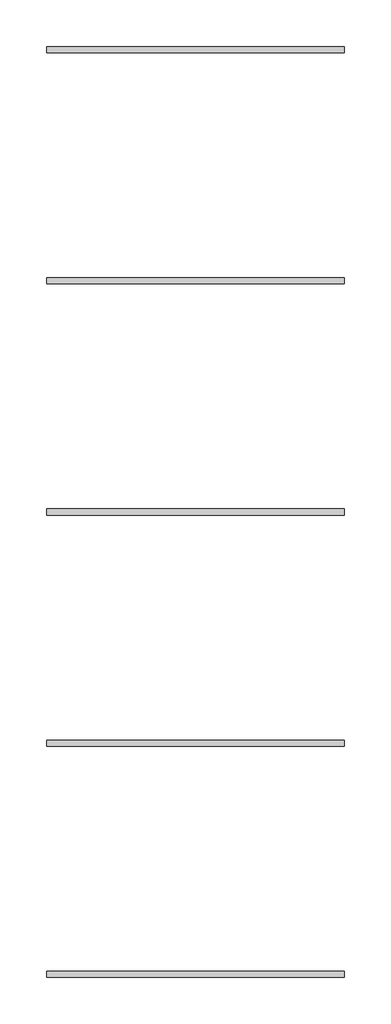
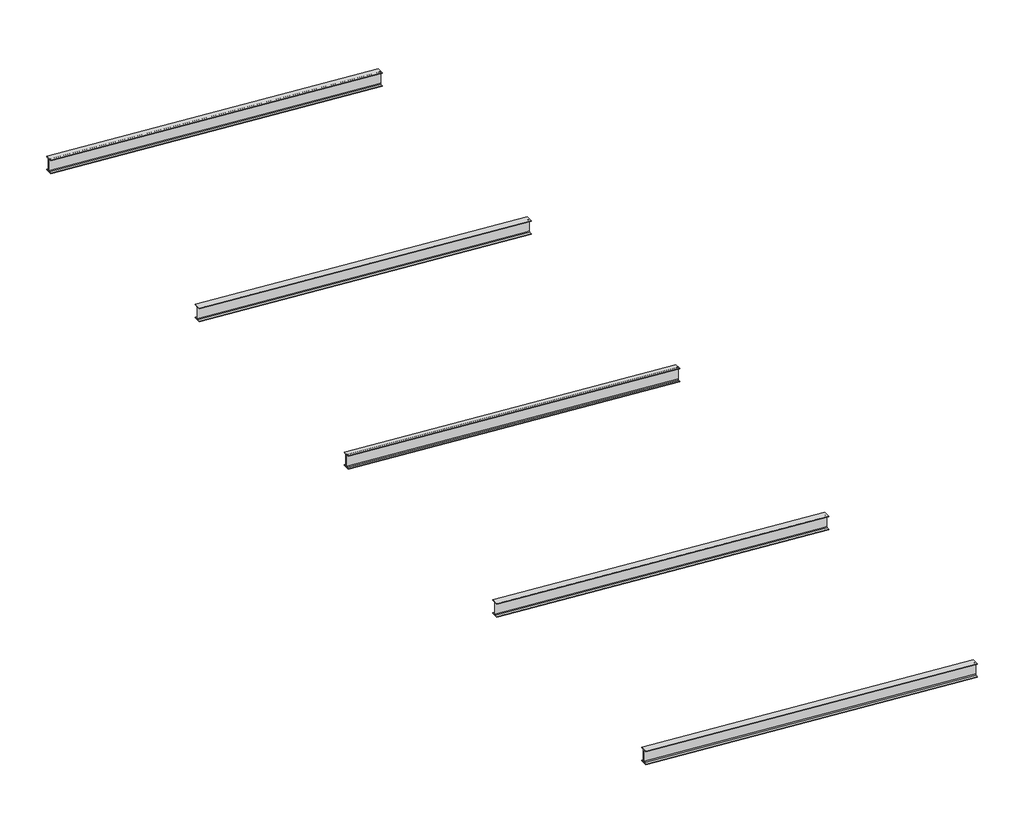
# One storey, part 1 of 2: 5 beams.
"""IFC4 building model written with IfcOpenShell, lengths in millimetres."""

import ifcopenshell
import ifcopenshell.guid

model = None  # the IFC model being written
_history = None  # IfcOwnerHistory: only IFC2X3 demands one
_inside = {}  # id of a spatial element -> (the spatial element, [elements in it])
_under = {}  # id of a project, library or spatial element -> (it, [spatial elements below it])
_declared = {}  # id of a project -> (the project, [libraries it declares])
_typed = {}  # id of a type object -> (the type object, [elements of that type])
_made_of = {}  # id of a material, layer set ... -> (it, [elements and type objects made of it])


def new_model(schema):
    """Start an empty IFC model of exactly this schema.

    Asked for "IFC4X3", IfcOpenShell would pick the latest addendum, in which some entities
    have other attributes; the version numbers below select the first issue.
    IFC2X3 requires an IfcOwnerHistory on every rooted entity: one is made here for all.
    """
    global model, _history
    if schema == "IFC4X3":
        model = ifcopenshell.file(schema_version=(4, 3, 0, 0))
    else:
        model = ifcopenshell.file(schema=schema)
    _inside.clear()
    _under.clear()
    _declared.clear()
    _typed.clear()
    _made_of.clear()
    _history = None
    if model.schema == "IFC2X3":
        org = make("IfcOrganization", Name="unknown")
        user = make(
            "IfcPersonAndOrganization",
            ThePerson=make("IfcPerson", FamilyName="unknown"),
            TheOrganization=org,
        )
        app = make(
            "IfcApplication",
            ApplicationDeveloper=org,
            Version="unknown",
            ApplicationFullName="unknown",
            ApplicationIdentifier="unknown",
        )
        _history = make(
            "IfcOwnerHistory",
            OwningUser=user,
            OwningApplication=app,
            ChangeAction="ADDED",
            CreationDate=0,
        )
    return model


def make(cls, **values):
    """One entity of the class cls with the attributes given. An attribute that is None is left unset."""
    return model.create_entity(
        cls, **{name: value for name, value in values.items() if value is not None}
    )


def rooted(cls, **values):
    """An entity with a GlobalId (a new one), such as an element, a storey or a relation."""
    return make(cls, GlobalId=ifcopenshell.guid.new(), OwnerHistory=_history, **values)


def si_unit(unit_type, name, prefix=None):
    """IfcSIUnit, for example si_unit("LENGTHUNIT", "METRE", prefix="MILLI")."""
    return make("IfcSIUnit", UnitType=unit_type, Prefix=prefix, Name=name)


def assignment(units):
    """IfcUnitAssignment: the units of a project."""
    return None if units is None else make("IfcUnitAssignment", Units=units)


def point(xyz):
    """IfcCartesianPoint."""
    return None if xyz is None else make("IfcCartesianPoint", Coordinates=xyz)


def direction(xyz):
    """IfcDirection."""
    return None if xyz is None else make("IfcDirection", DirectionRatios=xyz)


def frame(location, z_axis=None, x_axis=None):
    """IfcAxis2Placement3D, a coordinate frame: its origin and axes. An axis left out is left unset."""
    return make(
        "IfcAxis2Placement3D",
        Location=point(location),
        Axis=direction(z_axis),
        RefDirection=direction(x_axis),
    )


def origin():
    """The frame at (0, 0, 0) with its axes left unset."""
    return frame((0.0, 0.0, 0.0))


def place(relative_to, where):
    """IfcLocalPlacement: puts the frame where relative to a parent placement (None: the world)."""
    return make(
        "IfcLocalPlacement", PlacementRelTo=relative_to, RelativePlacement=where
    )


def context(
    kind, dimensions, precision=None, world=None, true_north=None, identifier=None
):
    """IfcGeometricRepresentationContext, for example the 3D "Model" context."""
    return make(
        "IfcGeometricRepresentationContext",
        ContextIdentifier=identifier,
        ContextType=kind,
        CoordinateSpaceDimension=dimensions,
        Precision=precision,
        WorldCoordinateSystem=world,
        TrueNorth=true_north,
    )


def project(units=None, contexts=None):
    """IfcProject with its units and contexts."""
    return rooted(
        "IfcProject",
        Name="project",
        RepresentationContexts=contexts,
        UnitsInContext=assignment(units),
    )


def spatial(cls, under=None, at=None, **own):
    """A site, building, storey or space (cls), placed at a placement, below another one or the project."""
    s = rooted(cls, ObjectPlacement=at, **own)
    if under is not None:
        _under.setdefault(under.id(), (under, []))[1].append(s)
    return s


def polyline(points):
    """IfcPolyline through the points."""
    return make("IfcPolyline", Points=[point(p) for p in points])


def ellipse_curve(where, semi_axis1, semi_axis2):
    """IfcEllipse in the frame where."""
    return make(
        "IfcEllipse", Position=where, SemiAxis1=semi_axis1, SemiAxis2=semi_axis2
    )


def shape(context_of_items, identifier, shape_type, items):
    """IfcShapeRepresentation: the items that make up one representation, for example the "Body"."""
    return make(
        "IfcShapeRepresentation",
        ContextOfItems=context_of_items,
        RepresentationIdentifier=identifier,
        RepresentationType=shape_type,
        Items=items,
    )


def made_of(thing, what):
    """Note that an element or type object is made of a material, layer set ...; save() writes the relation."""
    if what is not None:
        _made_of.setdefault(what.id(), (what, []))[1].append(thing)
    return thing


def element(
    cls,
    number,
    at=None,
    inside=None,
    cuts=None,
    type_object=None,
    material=None,
    context=None,
    identifier="Body",
    shape_type=None,
    held_by="IfcProductDefinitionShape",
    body=None,
    shapes=None,
    **own,
):
    """One element of the class cls, such as IfcWall. Its Tag is "e" and its number.

    at: its placement. inside: the storey or other place that contains it. cuts: it is an
    opening in that element (IfcRelVoidsElement). A single representation is given by context,
    identifier, shape_type and body (its items); several are given by shapes. held_by: the class
    of the entity that holds the representations. save() writes the other relations.
    """
    e = rooted(cls, Tag="e%d" % number, ObjectPlacement=at, **own)
    if body is not None:
        shapes = [shape(context, identifier, shape_type, body)]
    if shapes is not None:
        e.Representation = make(held_by, Representations=shapes)
    if inside is not None:
        _inside.setdefault(inside.id(), (inside, []))[1].append(e)
    if cuts is not None:
        rooted(
            "IfcRelVoidsElement", RelatingBuildingElement=cuts, RelatedOpeningElement=e
        )
    if type_object is not None:
        _typed.setdefault(type_object.id(), (type_object, []))[1].append(e)
    return made_of(e, material)


def aggregate(whole, parts):
    """IfcRelAggregates: a whole, such as a stair, and the parts it consists of."""
    return rooted("IfcRelAggregates", RelatingObject=whole, RelatedObjects=parts)


def save(model, path):
    """Write the relations noted so far, then the file.

    IfcRelAggregates (storeys below a building ...), IfcRelContainedInSpatialStructure (elements
    in a storey), IfcRelDefinesByType, IfcRelAssociatesMaterial and IfcRelDeclares: one each for
    every whole, place, type object, material and project.
    """
    for whole, parts in _under.values():
        aggregate(whole, parts)
    for where, things in _inside.values():
        rooted(
            "IfcRelContainedInSpatialStructure",
            RelatedElements=things,
            RelatingStructure=where,
        )
    for kind, things in _typed.values():
        rooted("IfcRelDefinesByType", RelatedObjects=things, RelatingType=kind)
    for what, things in _made_of.values():
        rooted("IfcRelAssociatesMaterial", RelatedObjects=things, RelatingMaterial=what)
    for by, libraries in _declared.values():
        rooted("IfcRelDeclares", RelatingContext=by, RelatedDefinitions=libraries)
    model.write(path)


def plane_surface(at):
    """IfcPlane: the flat surface through the origin of the frame at, square to its z axis."""
    return make("IfcPlane", Position=at)


def revolved_surface(curve, axis_point, axis_direction):
    """IfcSurfaceOfRevolution: the curve turned about the line through axis_point along axis_direction."""
    return make(
        "IfcSurfaceOfRevolution",
        SweptCurve=make("IfcArbitraryOpenProfileDef", ProfileType="CURVE", Curve=curve),
        AxisPosition=make("IfcAxis1Placement", Location=point(axis_point), Axis=direction(axis_direction)),
    )


def advanced_brep(points, edges, surfaces, faces):
    """IfcAdvancedBrep: a solid bounded by faces that lie on surfaces and meet in shared edges.

    An edge is (start, end): straight between two places in points (the first is 0);
    or (start, end, curve); or (start, end, curve, False) where it runs against its curve.
    A face is (place in surfaces, loops), or (place, loops, False) where it looks against
    its surface's normal. A loop lists edges by number (the first is 1), with a minus sign
    where the edge is run from its end to its start. The first loop is the outer one.
    """
    corners = [point(p) for p in points]
    vertices = [make("IfcVertexPoint", VertexGeometry=c) for c in corners]
    made = []
    for start, end, *more in edges:
        made.append(
            make(
                "IfcEdgeCurve",
                EdgeStart=vertices[start],
                EdgeEnd=vertices[end],
                EdgeGeometry=more[0] if more else make("IfcPolyline", Points=[corners[start], corners[end]]),
                SameSense=more[1] if len(more) > 1 else True,
            )
        )
    hull = []
    for where, loops, *sense in faces:
        bounds = []
        for j, loop in enumerate(loops):
            ring = [make("IfcOrientedEdge", EdgeElement=made[abs(k) - 1], Orientation=k > 0) for k in loop]
            bounds.append(
                make(
                    "IfcFaceOuterBound" if j == 0 else "IfcFaceBound",
                    Bound=make("IfcEdgeLoop", EdgeList=ring),
                    Orientation=True,
                )
            )
        hull.append(make("IfcAdvancedFace", Bounds=bounds, FaceSurface=surfaces[where], SameSense=sense[0] if sense else True))
    return make("IfcAdvancedBrep", Outer=make("IfcClosedShell", CfsFaces=hull))


model = new_model("IFC4")

# Units and contexts
model_context = context("Model", 3, world=origin())
ifc_project = project(units=[si_unit("LENGTHUNIT", "METRE", prefix="MILLI")], contexts=[model_context])

# Site, building, storey
site = spatial("IfcSite", under=ifc_project)
building = spatial("IfcBuilding", under=site)
storey = spatial("IfcBuildingStorey", under=building, Name="+3,50 góra", Elevation=3504.0)

# Beams
placement = place(None, origin())
element("IfcBeam", 1, ObjectType="RPLN IPE - Dwuteowniki równoległościenne : I330PE", at=placement, inside=storey, context=model_context, shape_type="AdvancedBrep", body=[
    advanced_brep(
    [(4098.4032904, -36890.7316585, 4062.6389037), (4098.4032904, -36832.4816585, 4062.6389037), (4098.4032904, -36832.4816585, 4051.1096327), (4098.4032904, -36992.4816585, 4051.1096327), (4098.4032904, -36992.4816585, 4062.6389037), (4098.4032904, -36934.2316585, 4062.6389037), (4098.4032904, -36916.2316585, 4080.6847192), (4098.4032904, -36916.2316585, 4352.3744964), (4098.4032904, -36934.2316585, 4370.4203118), (4098.4032904, -36992.4816585, 4370.4203118), (4098.4032904, -36992.4816585, 4381.9495828), (4098.4032904, -36832.4816585, 4381.9495828), (4098.4032904, -36832.4816585, 4370.4203118), (4098.4032904, -36890.7316585, 4370.4203118), (4098.4032904, -36908.7316585, 4352.3744964), (4098.4032904, -36908.7316585, 4080.6847192), (11827.9888896, -36832.4816585, 3510.7938331), (11827.9888896, -36890.7316585, 3510.7938331), (11827.9888896, -36908.7316585, 3528.8396485), (11827.9888896, -36908.7316585, 3800.5294258), (11827.9888896, -36890.7316585, 3818.5752412), (11827.9888896, -36832.4816585, 3818.5752412), (11827.9888896, -36832.4816585, 3830.1045122), (11827.9888896, -36992.4816585, 3830.1045122), (11827.9888896, -36992.4816585, 3818.5752412), (11827.9888896, -36934.2316585, 3818.5752412), (11827.9888896, -36916.2316585, 3800.5294258), (11827.9888896, -36916.2316585, 3528.8396485), (11827.9888896, -36934.2316585, 3510.7938331), (11827.9888896, -36992.4816585, 3510.7938331), (11827.9888896, -36992.4816585, 3499.2645621), (11827.9888896, -36832.4816585, 3499.2645621)],
    [
        (0, 1),
        (1, 2),
        (2, 3),
        (3, 4),
        (4, 5),
        (5, 6, ellipse_curve(frame((4098.4032904, -36934.2316585, 4080.6847192), z_axis=(1.0, 0.0, 0.0), x_axis=(0.0, 0.0, 1.0)), 18.0458155, 18.0)),
        (6, 7),
        (7, 8, ellipse_curve(frame((4098.4032904, -36934.2316585, 4352.3744964), z_axis=(1.0, 0.0, 0.0), x_axis=(0.0, 0.0, 1.0)), 18.0458155, 18.0)),
        (8, 9),
        (9, 10),
        (10, 11),
        (11, 12),
        (12, 13),
        (13, 14, ellipse_curve(frame((4098.4032904, -36890.7316585, 4352.3744964), z_axis=(1.0, 0.0, 0.0), x_axis=(0.0, 0.0, 1.0)), 18.0458155, 18.0)),
        (14, 15),
        (15, 0, ellipse_curve(frame((4098.4032904, -36890.7316585, 4080.6847192), z_axis=(1.0, 0.0, 0.0), x_axis=(0.0, 0.0, 1.0)), 18.0458155, 18.0)),
        (16, 17),
        (17, 18, ellipse_curve(frame((11827.9888896, -36890.7316585, 3528.8396485), z_axis=(-1.0, 0.0, 0.0), x_axis=(0.0, 0.0, 1.0)), 18.0458155, 18.0)),
        (18, 19),
        (19, 20, ellipse_curve(frame((11827.9888896, -36890.7316585, 3800.5294258), z_axis=(-1.0, 0.0, 0.0), x_axis=(0.0, 0.0, 1.0)), 18.0458155, 18.0)),
        (20, 21),
        (21, 22),
        (22, 23),
        (23, 24),
        (24, 25),
        (25, 26, ellipse_curve(frame((11827.9888896, -36934.2316585, 3800.5294258), z_axis=(-1.0, 0.0, 0.0), x_axis=(0.0, 0.0, 1.0)), 18.0458155, 18.0)),
        (26, 27),
        (27, 28, ellipse_curve(frame((11827.9888896, -36934.2316585, 3528.8396485), z_axis=(-1.0, 0.0, 0.0), x_axis=(0.0, 0.0, 1.0)), 18.0458155, 18.0)),
        (28, 29),
        (29, 30),
        (30, 31),
        (31, 16),
        (16, 1),
        (0, 17),
        (31, 2),
        (30, 3),
        (29, 4),
        (28, 5),
        (27, 6),
        (26, 7),
        (25, 8),
        (24, 9),
        (23, 10),
        (22, 11),
        (21, 12),
        (20, 13),
        (19, 14),
        (18, 15),
    ],
    [
        plane_surface(frame((4098.4032904, -28791.4644976, 4040.8513801), z_axis=(-1.0, 0.0, 0.0), x_axis=(0.0, 0.0, -1.0))),
        plane_surface(frame((11827.9888896, -28791.4644976, 3790.5936883), z_axis=(1.0, 0.0, 0.0), x_axis=(0.0, 0.0, 1.0))),
        plane_surface(frame((11911.7510301, -36832.4816585, 3504.8137292), z_axis=(0.07121261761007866, 0.0, 0.997461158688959), x_axis=(-0.997461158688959, 0.0, 0.07121261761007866))),
        plane_surface(frame((11910.932085, -36832.4816585, 3493.3429259), z_axis=(0.0, 1.0, 0.0), x_axis=(-0.997461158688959, 0.0, 0.07121261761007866))),
        plane_surface(frame((11910.932085, -36992.4816585, 3493.3429259), z_axis=(-0.07121261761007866, 0.0, -0.997461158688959), x_axis=(-0.997461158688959, 0.0, 0.07121261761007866))),
        plane_surface(frame((11911.7510301, -36992.4816585, 3504.8137292), z_axis=(0.0, -1.0, 0.0), x_axis=(-0.997461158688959, 0.0, 0.07121261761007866))),
        plane_surface(frame((11911.7510301, -36934.2316585, 3504.8137292), z_axis=(0.07121261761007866, 0.0, 0.997461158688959), x_axis=(-0.997461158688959, 0.0, 0.07121261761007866))),
        revolved_surface(polyline([(4097.12146327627, -36952.2316585, 4080.7762337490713), (11829.270716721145, -36952.2316585, 3528.7481339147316)]), (11913.0328572, -36934.2316585, 3522.7680301), (-0.997461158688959, 0.0, 0.07121261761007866)),
        plane_surface(frame((11932.3314766, -36916.2316585, 3793.0800041), z_axis=(0.0, -1.0, 0.0), x_axis=(-0.997461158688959, 0.0, 0.07121261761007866))),
        revolved_surface(polyline([(4097.121463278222, -36952.2316585, 4352.466010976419), (11829.270716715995, -36952.2316585, 3800.4379111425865)]), (11932.3314766, -36934.2316585, 3793.0800041), (-0.997461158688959, 0.0, 0.07121261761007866)),
        plane_surface(frame((11933.6133037, -36992.4816585, 3811.034305), z_axis=(-0.07121261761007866, 0.0, -0.997461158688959), x_axis=(-0.997461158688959, 0.0, 0.07121261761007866))),
        plane_surface(frame((11934.4322488, -36992.4816585, 3822.5051083), z_axis=(0.0, -1.0, 0.0), x_axis=(-0.997461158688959, 0.0, 0.07121261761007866))),
        plane_surface(frame((11934.4322488, -36832.4816585, 3822.5051083), z_axis=(0.07121261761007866, 0.0, 0.997461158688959), x_axis=(-0.997461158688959, 0.0, 0.07121261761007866))),
        plane_surface(frame((11933.6133037, -36832.4816585, 3811.034305), z_axis=(0.0, 1.0, 0.0), x_axis=(-0.997461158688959, 0.0, 0.07121261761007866))),
        plane_surface(frame((11933.6133037, -36890.7316585, 3811.034305), z_axis=(-0.07121261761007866, 0.0, -0.997461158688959), x_axis=(-0.997461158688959, 0.0, 0.07121261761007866))),
        revolved_surface(polyline([(4097.121463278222, -36908.7316585, 4352.466010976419), (11829.270716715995, -36908.7316585, 3800.4379111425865)]), (11932.3314766, -36890.7316585, 3793.0800041), (-0.997461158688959, 0.0, 0.07121261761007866)),
        plane_surface(frame((11913.0328572, -36908.7316585, 3522.7680301), z_axis=(0.0, 1.0, 0.0), x_axis=(-0.997461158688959, 0.0, 0.07121261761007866))),
        revolved_surface(polyline([(4097.12146327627, -36908.7316585, 4080.7762337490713), (11829.270716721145, -36908.7316585, 3528.7481339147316)]), (11913.0328572, -36890.7316585, 3522.7680301), (-0.997461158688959, 0.0, 0.07121261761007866)),
    ],
    [
        (0, [[1, 2, 3, 4, 5, 6, 7, 8, 9, 10, 11, 12, 13, 14, 15, 16]]),
        (1, [[17, 18, 19, 20, 21, 22, 23, 24, 25, 26, 27, 28, 29, 30, 31, 32]]),
        (2, [[33, -1, 34, -17]]),
        (3, [[35, -2, -33, -32]]),
        (4, [[36, -3, -35, -31]]),
        (5, [[37, -4, -36, -30]]),
        (6, [[38, -5, -37, -29]]),
        (7, [[39, -6, -38, -28]]),
        (8, [[40, -7, -39, -27]]),
        (9, [[41, -8, -40, -26]]),
        (10, [[42, -9, -41, -25]]),
        (11, [[43, -10, -42, -24]]),
        (12, [[44, -11, -43, -23]]),
        (13, [[45, -12, -44, -22]]),
        (14, [[46, -13, -45, -21]]),
        (15, [[47, -14, -46, -20]]),
        (16, [[48, -15, -47, -19]]),
        (17, [[-34, -16, -48, -18]]),
    ],
),
])
element("IfcBeam", 2, ObjectType="RPLN IPE - Dwuteowniki równoległościenne : I330PE", at=placement, inside=storey, context=model_context, shape_type="AdvancedBrep", body=[
    advanced_brep(
    [(4098.4032904, -30890.7316585, 4052.3806511), (4098.4032904, -30832.4816585, 4052.3806511), (4098.4032904, -30832.4816585, 4040.8513801), (4098.4032904, -30992.4816585, 4040.8513801), (4098.4032904, -30992.4816585, 4052.3806511), (4098.4032904, -30934.2316585, 4052.3806511), (4098.4032904, -30916.2316585, 4070.4264665), (4098.4032904, -30916.2316585, 4342.1162438), (4098.4032904, -30934.2316585, 4360.1620592), (4098.4032904, -30992.4816585, 4360.1620592), (4098.4032904, -30992.4816585, 4371.6913302), (4098.4032904, -30832.4816585, 4371.6913302), (4098.4032904, -30832.4816585, 4360.1620592), (4098.4032904, -30890.7316585, 4360.1620592), (4098.4032904, -30908.7316585, 4342.1162438), (4098.4032904, -30908.7316585, 4070.4264665), (11827.9888896, -30832.4816585, 3500.5355804), (11827.9888896, -30890.7316585, 3500.5355804), (11827.9888896, -30908.7316585, 3518.5813959), (11827.9888896, -30908.7316585, 3790.2711731), (11827.9888896, -30890.7316585, 3808.3169886), (11827.9888896, -30832.4816585, 3808.3169886), (11827.9888896, -30832.4816585, 3819.8462596), (11827.9888896, -30992.4816585, 3819.8462596), (11827.9888896, -30992.4816585, 3808.3169886), (11827.9888896, -30934.2316585, 3808.3169886), (11827.9888896, -30916.2316585, 3790.2711731), (11827.9888896, -30916.2316585, 3518.5813959), (11827.9888896, -30934.2316585, 3500.5355804), (11827.9888896, -30992.4816585, 3500.5355804), (11827.9888896, -30992.4816585, 3489.0063094), (11827.9888896, -30832.4816585, 3489.0063094)],
    [
        (0, 1),
        (1, 2),
        (2, 3),
        (3, 4),
        (4, 5),
        (5, 6, ellipse_curve(frame((4098.4032904, -30934.2316585, 4070.4264665), z_axis=(1.0, 0.0, 0.0), x_axis=(0.0, 0.0, 1.0)), 18.0458155, 18.0)),
        (6, 7),
        (7, 8, ellipse_curve(frame((4098.4032904, -30934.2316585, 4342.1162438), z_axis=(1.0, 0.0, 0.0), x_axis=(0.0, 0.0, 1.0)), 18.0458155, 18.0)),
        (8, 9),
        (9, 10),
        (10, 11),
        (11, 12),
        (12, 13),
        (13, 14, ellipse_curve(frame((4098.4032904, -30890.7316585, 4342.1162438), z_axis=(1.0, 0.0, 0.0), x_axis=(0.0, 0.0, 1.0)), 18.0458155, 18.0)),
        (14, 15),
        (15, 0, ellipse_curve(frame((4098.4032904, -30890.7316585, 4070.4264665), z_axis=(1.0, 0.0, 0.0), x_axis=(0.0, 0.0, 1.0)), 18.0458155, 18.0)),
        (16, 17),
        (17, 18, ellipse_curve(frame((11827.9888896, -30890.7316585, 3518.5813959), z_axis=(-1.0, 0.0, 0.0), x_axis=(0.0, 0.0, 1.0)), 18.0458155, 18.0)),
        (18, 19),
        (19, 20, ellipse_curve(frame((11827.9888896, -30890.7316585, 3790.2711731), z_axis=(-1.0, 0.0, 0.0), x_axis=(0.0, 0.0, 1.0)), 18.0458155, 18.0)),
        (20, 21),
        (21, 22),
        (22, 23),
        (23, 24),
        (24, 25),
        (25, 26, ellipse_curve(frame((11827.9888896, -30934.2316585, 3790.2711731), z_axis=(-1.0, 0.0, 0.0), x_axis=(0.0, 0.0, 1.0)), 18.0458155, 18.0)),
        (26, 27),
        (27, 28, ellipse_curve(frame((11827.9888896, -30934.2316585, 3518.5813959), z_axis=(-1.0, 0.0, 0.0), x_axis=(0.0, 0.0, 1.0)), 18.0458155, 18.0)),
        (28, 29),
        (29, 30),
        (30, 31),
        (31, 16),
        (16, 1),
        (0, 17),
        (31, 2),
        (30, 3),
        (29, 4),
        (28, 5),
        (27, 6),
        (26, 7),
        (25, 8),
        (24, 9),
        (23, 10),
        (22, 11),
        (21, 12),
        (20, 13),
        (19, 14),
        (18, 15),
    ],
    [
        plane_surface(frame((4098.4032904, -28791.4644976, 4040.8513801), z_axis=(-1.0, 0.0, 0.0), x_axis=(0.0, 0.0, -1.0))),
        plane_surface(frame((11827.9888896, -28791.4644976, 3790.5936883), z_axis=(1.0, 0.0, 0.0), x_axis=(0.0, 0.0, 1.0))),
        plane_surface(frame((11876.6555373, -30832.4816585, 3497.0610799), z_axis=(0.07121261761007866, 0.0, 0.997461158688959), x_axis=(-0.997461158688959, 0.0, 0.07121261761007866))),
        plane_surface(frame((11875.8365922, -30832.4816585, 3485.5902765), z_axis=(0.0, 1.0, 0.0), x_axis=(-0.997461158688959, 0.0, 0.07121261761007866))),
        plane_surface(frame((11875.8365922, -30992.4816585, 3485.5902765), z_axis=(-0.07121261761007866, 0.0, -0.997461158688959), x_axis=(-0.997461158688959, 0.0, 0.07121261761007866))),
        plane_surface(frame((11876.6555373, -30992.4816585, 3497.0610799), z_axis=(0.0, -1.0, 0.0), x_axis=(-0.997461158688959, 0.0, 0.07121261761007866))),
        plane_surface(frame((11876.6555373, -30934.2316585, 3497.0610799), z_axis=(0.07121261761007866, 0.0, 0.997461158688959), x_axis=(-0.997461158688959, 0.0, 0.07121261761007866))),
        revolved_surface(polyline([(4097.121463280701, -30952.2316585, 4070.517981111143), (11829.270716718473, -30952.2316585, 3518.48988127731)]), (11877.9373644, -30934.2316585, 3515.0153807), (-0.997461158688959, 0.0, 0.07121261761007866)),
        plane_surface(frame((11897.2359838, -30916.2316585, 3785.3273547), z_axis=(0.0, -1.0, 0.0), x_axis=(-0.997461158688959, 0.0, 0.07121261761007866))),
        revolved_surface(polyline([(4097.121463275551, -30952.2316585, 4342.207758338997), (11829.270716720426, -30952.2316585, 3790.1796585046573)]), (11897.2359838, -30934.2316585, 3785.3273547), (-0.997461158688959, 0.0, 0.07121261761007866)),
        plane_surface(frame((11898.5178109, -30992.4816585, 3803.2816556), z_axis=(-0.07121261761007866, 0.0, -0.997461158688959), x_axis=(-0.997461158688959, 0.0, 0.07121261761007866))),
        plane_surface(frame((11899.336756, -30992.4816585, 3814.7524589), z_axis=(0.0, -1.0, 0.0), x_axis=(-0.997461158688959, 0.0, 0.07121261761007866))),
        plane_surface(frame((11899.336756, -30832.4816585, 3814.7524589), z_axis=(0.07121261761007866, 0.0, 0.997461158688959), x_axis=(-0.997461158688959, 0.0, 0.07121261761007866))),
        plane_surface(frame((11898.5178109, -30832.4816585, 3803.2816556), z_axis=(0.0, 1.0, 0.0), x_axis=(-0.997461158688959, 0.0, 0.07121261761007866))),
        plane_surface(frame((11898.5178109, -30890.7316585, 3803.2816556), z_axis=(-0.07121261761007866, 0.0, -0.997461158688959), x_axis=(-0.997461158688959, 0.0, 0.07121261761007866))),
        revolved_surface(polyline([(4097.121463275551, -30908.7316585, 4342.207758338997), (11829.270716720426, -30908.7316585, 3790.1796585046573)]), (11897.2359838, -30890.7316585, 3785.3273547), (-0.997461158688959, 0.0, 0.07121261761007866)),
        plane_surface(frame((11877.9373644, -30908.7316585, 3515.0153807), z_axis=(0.0, 1.0, 0.0), x_axis=(-0.997461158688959, 0.0, 0.07121261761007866))),
        revolved_surface(polyline([(4097.121463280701, -30908.7316585, 4070.517981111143), (11829.270716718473, -30908.7316585, 3518.48988127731)]), (11877.9373644, -30890.7316585, 3515.0153807), (-0.997461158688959, 0.0, 0.07121261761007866)),
    ],
    [
        (0, [[1, 2, 3, 4, 5, 6, 7, 8, 9, 10, 11, 12, 13, 14, 15, 16]]),
        (1, [[17, 18, 19, 20, 21, 22, 23, 24, 25, 26, 27, 28, 29, 30, 31, 32]]),
        (2, [[33, -1, 34, -17]]),
        (3, [[35, -2, -33, -32]]),
        (4, [[36, -3, -35, -31]]),
        (5, [[37, -4, -36, -30]]),
        (6, [[38, -5, -37, -29]]),
        (7, [[39, -6, -38, -28]]),
        (8, [[40, -7, -39, -27]]),
        (9, [[41, -8, -40, -26]]),
        (10, [[42, -9, -41, -25]]),
        (11, [[43, -10, -42, -24]]),
        (12, [[44, -11, -43, -23]]),
        (13, [[45, -12, -44, -22]]),
        (14, [[46, -13, -45, -21]]),
        (15, [[47, -14, -46, -20]]),
        (16, [[48, -15, -47, -19]]),
        (17, [[-34, -16, -48, -18]]),
    ],
),
])
element("IfcBeam", 3, ObjectType="RPLN IPE - Dwuteowniki równoległościenne : I330PE", at=placement, inside=storey, context=model_context, shape_type="AdvancedBrep", body=[
    advanced_brep(
    [(11827.9888896, -24832.4816585, 3500.5355804), (11827.9888896, -24890.7316585, 3500.5355804), (11827.9888896, -24908.7316585, 3518.5813959), (11827.9888896, -24908.7316585, 3790.2711731), (11827.9888896, -24890.7316585, 3808.3169886), (11827.9888896, -24832.4816585, 3808.3169886), (11827.9888896, -24832.4816585, 3819.8462596), (11827.9888896, -24992.4816585, 3819.8462596), (11827.9888896, -24992.4816585, 3808.3169886), (11827.9888896, -24934.2316585, 3808.3169886), (11827.9888896, -24916.2316585, 3790.2711731), (11827.9888896, -24916.2316585, 3518.5813959), (11827.9888896, -24934.2316585, 3500.5355804), (11827.9888896, -24992.4816585, 3500.5355804), (11827.9888896, -24992.4816585, 3489.0063094), (11827.9888896, -24832.4816585, 3489.0063094), (4098.4032904, -24832.4816585, 4052.3806511), (4098.4032904, -24832.4816585, 4040.8513801), (4098.4032904, -24992.4816585, 4040.8513801), (4098.4032904, -24992.4816585, 4052.3806511), (4098.4032904, -24934.2316585, 4052.3806511), (4098.4032904, -24916.2316585, 4070.4264665), (4098.4032904, -24916.2316585, 4342.1162438), (4098.4032904, -24934.2316585, 4360.1620592), (4098.4032904, -24992.4816585, 4360.1620592), (4098.4032904, -24992.4816585, 4371.6913302), (4098.4032904, -24832.4816585, 4371.6913302), (4098.4032904, -24832.4816585, 4360.1620592), (4098.4032904, -24890.7316585, 4360.1620592), (4098.4032904, -24908.7316585, 4342.1162438), (4098.4032904, -24908.7316585, 4070.4264665), (4098.4032904, -24890.7316585, 4052.3806511)],
    [
        (0, 1),
        (1, 2, ellipse_curve(frame((11827.9888896, -24890.7316585, 3518.5813959), z_axis=(-1.0, 0.0, 0.0), x_axis=(0.0, 0.0, 1.0)), 18.0458155, 18.0)),
        (2, 3),
        (3, 4, ellipse_curve(frame((11827.9888896, -24890.7316585, 3790.2711731), z_axis=(-1.0, 0.0, 0.0), x_axis=(0.0, 0.0, 1.0)), 18.0458155, 18.0)),
        (4, 5),
        (5, 6),
        (6, 7),
        (7, 8),
        (8, 9),
        (9, 10, ellipse_curve(frame((11827.9888896, -24934.2316585, 3790.2711731), z_axis=(-1.0, 0.0, 0.0), x_axis=(0.0, 0.0, 1.0)), 18.0458155, 18.0)),
        (10, 11),
        (11, 12, ellipse_curve(frame((11827.9888896, -24934.2316585, 3518.5813959), z_axis=(-1.0, 0.0, 0.0), x_axis=(0.0, 0.0, 1.0)), 18.0458155, 18.0)),
        (12, 13),
        (13, 14),
        (14, 15),
        (15, 0),
        (16, 17),
        (17, 18),
        (18, 19),
        (19, 20),
        (20, 21, ellipse_curve(frame((4098.4032904, -24934.2316585, 4070.4264665), z_axis=(1.0, 0.0, 0.0), x_axis=(0.0, 0.0, 1.0)), 18.0458155, 18.0)),
        (21, 22),
        (22, 23, ellipse_curve(frame((4098.4032904, -24934.2316585, 4342.1162438), z_axis=(1.0, 0.0, 0.0), x_axis=(0.0, 0.0, 1.0)), 18.0458155, 18.0)),
        (23, 24),
        (24, 25),
        (25, 26),
        (26, 27),
        (27, 28),
        (28, 29, ellipse_curve(frame((4098.4032904, -24890.7316585, 4342.1162438), z_axis=(1.0, 0.0, 0.0), x_axis=(0.0, 0.0, 1.0)), 18.0458155, 18.0)),
        (29, 30),
        (30, 31, ellipse_curve(frame((4098.4032904, -24890.7316585, 4070.4264665), z_axis=(1.0, 0.0, 0.0), x_axis=(0.0, 0.0, 1.0)), 18.0458155, 18.0)),
        (31, 16),
        (0, 16),
        (31, 1),
        (30, 2),
        (29, 3),
        (28, 4),
        (27, 5),
        (26, 6),
        (25, 7),
        (24, 8),
        (23, 9),
        (22, 10),
        (21, 11),
        (20, 12),
        (19, 13),
        (18, 14),
        (17, 15),
    ],
    [
        plane_surface(frame((11827.9888896, -28791.4644976, 3790.5936883), z_axis=(1.0, 0.0, 0.0), x_axis=(0.0, 0.0, 1.0))),
        plane_surface(frame((4098.4032904, -28791.4644976, 4040.8513801), z_axis=(-1.0, 0.0, 0.0), x_axis=(0.0, 0.0, -1.0))),
        plane_surface(frame((12010.8699902, -24832.4816585, 3487.4789899), z_axis=(0.07121261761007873, 0.0, 0.997461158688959), x_axis=(-0.997461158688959, 0.0, 0.07121261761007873))),
        revolved_surface(polyline([(4097.121463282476, -24908.7316585, 4070.5179811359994), (11829.270716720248, -24908.7316585, 3518.489881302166)]), (12012.1518174, -24890.7316585, 3505.4332908), (-0.997461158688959, 0.0, 0.07121261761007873)),
        plane_surface(frame((12012.1518174, -24908.7316585, 3505.4332908), z_axis=(0.0, 1.0, 0.0), x_axis=(-0.997461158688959, 0.0, 0.07121261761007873))),
        revolved_surface(polyline([(4097.121463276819, -24908.7316585, 4342.207758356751), (11829.270716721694, -24908.7316585, 3790.17965852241)]), (12031.4504367, -24890.7316585, 3775.7452648), (-0.997461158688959, 0.0, 0.07121261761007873)),
        plane_surface(frame((12032.7322638, -24890.7316585, 3793.6995657), z_axis=(-0.07121261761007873, 0.0, -0.997461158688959), x_axis=(-0.997461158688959, 0.0, 0.07121261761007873))),
        plane_surface(frame((12032.7322638, -24832.4816585, 3793.6995657), z_axis=(0.0, 1.0, 0.0), x_axis=(-0.997461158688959, 0.0, 0.07121261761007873))),
        plane_surface(frame((12033.551209, -24832.4816585, 3805.170369), z_axis=(0.07121261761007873, 0.0, 0.997461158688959), x_axis=(-0.997461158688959, 0.0, 0.07121261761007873))),
        plane_surface(frame((12033.551209, -24992.4816585, 3805.170369), z_axis=(0.0, -1.0, 0.0), x_axis=(-0.997461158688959, 0.0, 0.07121261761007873))),
        plane_surface(frame((12032.7322638, -24992.4816585, 3793.6995657), z_axis=(-0.07121261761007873, 0.0, -0.997461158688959), x_axis=(-0.997461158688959, 0.0, 0.07121261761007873))),
        revolved_surface(polyline([(4097.121463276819, -24952.2316585, 4342.207758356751), (11829.270716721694, -24952.2316585, 3790.17965852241)]), (12031.4504367, -24934.2316585, 3775.7452648), (-0.997461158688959, 0.0, 0.07121261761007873)),
        plane_surface(frame((12031.4504367, -24916.2316585, 3775.7452648), z_axis=(0.0, -1.0, 0.0), x_axis=(-0.997461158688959, 0.0, 0.07121261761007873))),
        revolved_surface(polyline([(4097.121463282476, -24952.2316585, 4070.5179811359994), (11829.270716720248, -24952.2316585, 3518.489881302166)]), (12012.1518174, -24934.2316585, 3505.4332908), (-0.997461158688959, 0.0, 0.07121261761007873)),
        plane_surface(frame((12010.8699902, -24934.2316585, 3487.4789899), z_axis=(0.07121261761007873, 0.0, 0.997461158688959), x_axis=(-0.997461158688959, 0.0, 0.07121261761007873))),
        plane_surface(frame((12010.8699902, -24992.4816585, 3487.4789899), z_axis=(0.0, -1.0, 0.0), x_axis=(-0.997461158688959, 0.0, 0.07121261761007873))),
        plane_surface(frame((12010.0510451, -24992.4816585, 3476.0081866), z_axis=(-0.07121261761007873, 0.0, -0.997461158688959), x_axis=(-0.997461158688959, 0.0, 0.07121261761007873))),
        plane_surface(frame((12010.0510451, -24832.4816585, 3476.0081866), z_axis=(0.0, 1.0, 0.0), x_axis=(-0.997461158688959, 0.0, 0.07121261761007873))),
    ],
    [
        (0, [[1, 2, 3, 4, 5, 6, 7, 8, 9, 10, 11, 12, 13, 14, 15, 16]]),
        (1, [[17, 18, 19, 20, 21, 22, 23, 24, 25, 26, 27, 28, 29, 30, 31, 32]]),
        (2, [[33, -32, 34, -1]]),
        (3, [[-34, -31, 35, -2]]),
        (4, [[-35, -30, 36, -3]]),
        (5, [[-36, -29, 37, -4]]),
        (6, [[-37, -28, 38, -5]]),
        (7, [[-38, -27, 39, -6]]),
        (8, [[-39, -26, 40, -7]]),
        (9, [[-40, -25, 41, -8]]),
        (10, [[-41, -24, 42, -9]]),
        (11, [[-42, -23, 43, -10]]),
        (12, [[-43, -22, 44, -11]]),
        (13, [[-44, -21, 45, -12]]),
        (14, [[-45, -20, 46, -13]]),
        (15, [[-46, -19, 47, -14]]),
        (16, [[-47, -18, 48, -15]]),
        (17, [[-48, -17, -33, -16]]),
    ],
),
])
element("IfcBeam", 4, ObjectType="RPLN IPE - Dwuteowniki równoległościenne : I330PE", at=placement, inside=storey, context=model_context, shape_type="AdvancedBrep", body=[
    advanced_brep(
    [(4098.4032904, -18890.7316585, 4052.3806511), (4098.4032904, -18832.4816585, 4052.3806511), (4098.4032904, -18832.4816585, 4040.8513801), (4098.4032904, -18992.4816585, 4040.8513801), (4098.4032904, -18992.4816585, 4052.3806511), (4098.4032904, -18934.2316585, 4052.3806511), (4098.4032904, -18916.2316585, 4070.4264665), (4098.4032904, -18916.2316585, 4342.1162438), (4098.4032904, -18934.2316585, 4360.1620592), (4098.4032904, -18992.4816585, 4360.1620592), (4098.4032904, -18992.4816585, 4371.6913302), (4098.4032904, -18832.4816585, 4371.6913302), (4098.4032904, -18832.4816585, 4360.1620592), (4098.4032904, -18890.7316585, 4360.1620592), (4098.4032904, -18908.7316585, 4342.1162438), (4098.4032904, -18908.7316585, 4070.4264665), (11827.9888896, -18832.4816585, 3500.5355804), (11827.9888896, -18890.7316585, 3500.5355804), (11827.9888896, -18908.7316585, 3518.5813959), (11827.9888896, -18908.7316585, 3790.2711731), (11827.9888896, -18890.7316585, 3808.3169886), (11827.9888896, -18832.4816585, 3808.3169886), (11827.9888896, -18832.4816585, 3819.8462596), (11827.9888896, -18992.4816585, 3819.8462596), (11827.9888896, -18992.4816585, 3808.3169886), (11827.9888896, -18934.2316585, 3808.3169886), (11827.9888896, -18916.2316585, 3790.2711731), (11827.9888896, -18916.2316585, 3518.5813959), (11827.9888896, -18934.2316585, 3500.5355804), (11827.9888896, -18992.4816585, 3500.5355804), (11827.9888896, -18992.4816585, 3489.0063094), (11827.9888896, -18832.4816585, 3489.0063094)],
    [
        (0, 1),
        (1, 2),
        (2, 3),
        (3, 4),
        (4, 5),
        (5, 6, ellipse_curve(frame((4098.4032904, -18934.2316585, 4070.4264665), z_axis=(1.0, 0.0, 0.0), x_axis=(0.0, 0.0, 1.0)), 18.0458155, 18.0)),
        (6, 7),
        (7, 8, ellipse_curve(frame((4098.4032904, -18934.2316585, 4342.1162438), z_axis=(1.0, 0.0, 0.0), x_axis=(0.0, 0.0, 1.0)), 18.0458155, 18.0)),
        (8, 9),
        (9, 10),
        (10, 11),
        (11, 12),
        (12, 13),
        (13, 14, ellipse_curve(frame((4098.4032904, -18890.7316585, 4342.1162438), z_axis=(1.0, 0.0, 0.0), x_axis=(0.0, 0.0, 1.0)), 18.0458155, 18.0)),
        (14, 15),
        (15, 0, ellipse_curve(frame((4098.4032904, -18890.7316585, 4070.4264665), z_axis=(1.0, 0.0, 0.0), x_axis=(0.0, 0.0, 1.0)), 18.0458155, 18.0)),
        (16, 17),
        (17, 18, ellipse_curve(frame((11827.9888896, -18890.7316585, 3518.5813959), z_axis=(-1.0, 0.0, 0.0), x_axis=(0.0, 0.0, 1.0)), 18.0458155, 18.0)),
        (18, 19),
        (19, 20, ellipse_curve(frame((11827.9888896, -18890.7316585, 3790.2711731), z_axis=(-1.0, 0.0, 0.0), x_axis=(0.0, 0.0, 1.0)), 18.0458155, 18.0)),
        (20, 21),
        (21, 22),
        (22, 23),
        (23, 24),
        (24, 25),
        (25, 26, ellipse_curve(frame((11827.9888896, -18934.2316585, 3790.2711731), z_axis=(-1.0, 0.0, 0.0), x_axis=(0.0, 0.0, 1.0)), 18.0458155, 18.0)),
        (26, 27),
        (27, 28, ellipse_curve(frame((11827.9888896, -18934.2316585, 3518.5813959), z_axis=(-1.0, 0.0, 0.0), x_axis=(0.0, 0.0, 1.0)), 18.0458155, 18.0)),
        (28, 29),
        (29, 30),
        (30, 31),
        (31, 16),
        (16, 1),
        (0, 17),
        (31, 2),
        (30, 3),
        (29, 4),
        (28, 5),
        (27, 6),
        (26, 7),
        (25, 8),
        (24, 9),
        (23, 10),
        (22, 11),
        (21, 12),
        (20, 13),
        (19, 14),
        (18, 15),
    ],
    [
        plane_surface(frame((4098.4032904, -28791.4644976, 4040.8513801), z_axis=(-1.0, 0.0, 0.0), x_axis=(0.0, 0.0, -1.0))),
        plane_surface(frame((11827.9888896, -28791.4644976, 3790.5936883), z_axis=(1.0, 0.0, 0.0), x_axis=(0.0, 0.0, 1.0))),
        plane_surface(frame((11936.0089386, -18832.4816585, 3492.8236105), z_axis=(0.07121261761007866, 0.0, 0.997461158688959), x_axis=(-0.997461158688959, 0.0, 0.07121261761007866))),
        plane_surface(frame((11935.1899935, -18832.4816585, 3481.3528072), z_axis=(0.0, 1.0, 0.0), x_axis=(-0.997461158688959, 0.0, 0.07121261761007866))),
        plane_surface(frame((11935.1899935, -18992.4816585, 3481.3528072), z_axis=(-0.07121261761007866, 0.0, -0.997461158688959), x_axis=(-0.997461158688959, 0.0, 0.07121261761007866))),
        plane_surface(frame((11936.0089386, -18992.4816585, 3492.8236105), z_axis=(0.0, -1.0, 0.0), x_axis=(-0.997461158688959, 0.0, 0.07121261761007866))),
        plane_surface(frame((11936.0089386, -18934.2316585, 3492.8236105), z_axis=(0.07121261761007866, 0.0, 0.997461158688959), x_axis=(-0.997461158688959, 0.0, 0.07121261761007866))),
        revolved_surface(polyline([(4097.121463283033, -18952.2316585, 4070.517981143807), (11829.270716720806, -18952.2316585, 3518.4898813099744)]), (11937.2907657, -18934.2316585, 3510.7779114), (-0.997461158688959, 0.0, 0.07121261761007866)),
        plane_surface(frame((11956.5893851, -18916.2316585, 3781.0898854), z_axis=(0.0, -1.0, 0.0), x_axis=(-0.997461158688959, 0.0, 0.07121261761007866))),
        revolved_surface(polyline([(4097.121463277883, -18952.2316585, 4342.207758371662), (11829.270716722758, -18952.2316585, 3790.179658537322)]), (11956.5893851, -18934.2316585, 3781.0898854), (-0.997461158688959, 0.0, 0.07121261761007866)),
        plane_surface(frame((11957.8712122, -18992.4816585, 3799.0441862), z_axis=(-0.07121261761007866, 0.0, -0.997461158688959), x_axis=(-0.997461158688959, 0.0, 0.07121261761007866))),
        plane_surface(frame((11958.6901573, -18992.4816585, 3810.5149896), z_axis=(0.0, -1.0, 0.0), x_axis=(-0.997461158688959, 0.0, 0.07121261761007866))),
        plane_surface(frame((11958.6901573, -18832.4816585, 3810.5149896), z_axis=(0.07121261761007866, 0.0, 0.997461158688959), x_axis=(-0.997461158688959, 0.0, 0.07121261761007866))),
        plane_surface(frame((11957.8712122, -18832.4816585, 3799.0441862), z_axis=(0.0, 1.0, 0.0), x_axis=(-0.997461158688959, 0.0, 0.07121261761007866))),
        plane_surface(frame((11957.8712122, -18890.7316585, 3799.0441862), z_axis=(-0.07121261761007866, 0.0, -0.997461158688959), x_axis=(-0.997461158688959, 0.0, 0.07121261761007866))),
        revolved_surface(polyline([(4097.121463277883, -18908.7316585, 4342.207758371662), (11829.270716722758, -18908.7316585, 3790.179658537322)]), (11956.5893851, -18890.7316585, 3781.0898854), (-0.997461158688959, 0.0, 0.07121261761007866)),
        plane_surface(frame((11937.2907657, -18908.7316585, 3510.7779114), z_axis=(0.0, 1.0, 0.0), x_axis=(-0.997461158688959, 0.0, 0.07121261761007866))),
        revolved_surface(polyline([(4097.121463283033, -18908.7316585, 4070.517981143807), (11829.270716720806, -18908.7316585, 3518.4898813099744)]), (11937.2907657, -18890.7316585, 3510.7779114), (-0.997461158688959, 0.0, 0.07121261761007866)),
    ],
    [
        (0, [[1, 2, 3, 4, 5, 6, 7, 8, 9, 10, 11, 12, 13, 14, 15, 16]]),
        (1, [[17, 18, 19, 20, 21, 22, 23, 24, 25, 26, 27, 28, 29, 30, 31, 32]]),
        (2, [[33, -1, 34, -17]]),
        (3, [[35, -2, -33, -32]]),
        (4, [[36, -3, -35, -31]]),
        (5, [[37, -4, -36, -30]]),
        (6, [[38, -5, -37, -29]]),
        (7, [[39, -6, -38, -28]]),
        (8, [[40, -7, -39, -27]]),
        (9, [[41, -8, -40, -26]]),
        (10, [[42, -9, -41, -25]]),
        (11, [[43, -10, -42, -24]]),
        (12, [[44, -11, -43, -23]]),
        (13, [[45, -12, -44, -22]]),
        (14, [[46, -13, -45, -21]]),
        (15, [[47, -14, -46, -20]]),
        (16, [[48, -15, -47, -19]]),
        (17, [[-34, -16, -48, -18]]),
    ],
),
])
element("IfcBeam", 5, ObjectType="RPLN IPE - Dwuteowniki równoległościenne : I330PE", at=placement, inside=storey, context=model_context, shape_type="AdvancedBrep", body=[
    advanced_brep(
    [(4098.4032904, -12890.7316585, 4052.3806511), (4098.4032904, -12832.4816585, 4052.3806511), (4098.4032904, -12832.4816585, 4040.8513801), (4098.4032904, -12992.4816585, 4040.8513801), (4098.4032904, -12992.4816585, 4052.3806511), (4098.4032904, -12934.2316585, 4052.3806511), (4098.4032904, -12916.2316585, 4070.4264665), (4098.4032904, -12916.2316585, 4342.1162438), (4098.4032904, -12934.2316585, 4360.1620592), (4098.4032904, -12992.4816585, 4360.1620592), (4098.4032904, -12992.4816585, 4371.6913302), (4098.4032904, -12832.4816585, 4371.6913302), (4098.4032904, -12832.4816585, 4360.1620592), (4098.4032904, -12890.7316585, 4360.1620592), (4098.4032904, -12908.7316585, 4342.1162438), (4098.4032904, -12908.7316585, 4070.4264665), (11827.9888896, -12832.4816585, 3500.5355804), (11827.9888896, -12890.7316585, 3500.5355804), (11827.9888896, -12908.7316585, 3518.5813959), (11827.9888896, -12908.7316585, 3790.2711731), (11827.9888896, -12890.7316585, 3808.3169886), (11827.9888896, -12832.4816585, 3808.3169886), (11827.9888896, -12832.4816585, 3819.8462596), (11827.9888896, -12992.4816585, 3819.8462596), (11827.9888896, -12992.4816585, 3808.3169886), (11827.9888896, -12934.2316585, 3808.3169886), (11827.9888896, -12916.2316585, 3790.2711731), (11827.9888896, -12916.2316585, 3518.5813959), (11827.9888896, -12934.2316585, 3500.5355804), (11827.9888896, -12992.4816585, 3500.5355804), (11827.9888896, -12992.4816585, 3489.0063094), (11827.9888896, -12832.4816585, 3489.0063094)],
    [
        (0, 1),
        (1, 2),
        (2, 3),
        (3, 4),
        (4, 5),
        (5, 6, ellipse_curve(frame((4098.4032904, -12934.2316585, 4070.4264665), z_axis=(1.0, 0.0, 0.0), x_axis=(0.0, 0.0, 1.0)), 18.0458155, 18.0)),
        (6, 7),
        (7, 8, ellipse_curve(frame((4098.4032904, -12934.2316585, 4342.1162438), z_axis=(1.0, 0.0, 0.0), x_axis=(0.0, 0.0, 1.0)), 18.0458155, 18.0)),
        (8, 9),
        (9, 10),
        (10, 11),
        (11, 12),
        (12, 13),
        (13, 14, ellipse_curve(frame((4098.4032904, -12890.7316585, 4342.1162438), z_axis=(1.0, 0.0, 0.0), x_axis=(0.0, 0.0, 1.0)), 18.0458155, 18.0)),
        (14, 15),
        (15, 0, ellipse_curve(frame((4098.4032904, -12890.7316585, 4070.4264665), z_axis=(1.0, 0.0, 0.0), x_axis=(0.0, 0.0, 1.0)), 18.0458155, 18.0)),
        (16, 17),
        (17, 18, ellipse_curve(frame((11827.9888896, -12890.7316585, 3518.5813959), z_axis=(-1.0, 0.0, 0.0), x_axis=(0.0, 0.0, 1.0)), 18.0458155, 18.0)),
        (18, 19),
        (19, 20, ellipse_curve(frame((11827.9888896, -12890.7316585, 3790.2711731), z_axis=(-1.0, 0.0, 0.0), x_axis=(0.0, 0.0, 1.0)), 18.0458155, 18.0)),
        (20, 21),
        (21, 22),
        (22, 23),
        (23, 24),
        (24, 25),
        (25, 26, ellipse_curve(frame((11827.9888896, -12934.2316585, 3790.2711731), z_axis=(-1.0, 0.0, 0.0), x_axis=(0.0, 0.0, 1.0)), 18.0458155, 18.0)),
        (26, 27),
        (27, 28, ellipse_curve(frame((11827.9888896, -12934.2316585, 3518.5813959), z_axis=(-1.0, 0.0, 0.0), x_axis=(0.0, 0.0, 1.0)), 18.0458155, 18.0)),
        (28, 29),
        (29, 30),
        (30, 31),
        (31, 16),
        (16, 1),
        (0, 17),
        (31, 2),
        (30, 3),
        (29, 4),
        (28, 5),
        (27, 6),
        (26, 7),
        (25, 8),
        (24, 9),
        (23, 10),
        (22, 11),
        (21, 12),
        (20, 13),
        (19, 14),
        (18, 15),
    ],
    [
        plane_surface(frame((4098.4032904, -28791.4644976, 4040.8513801), z_axis=(-1.0, 0.0, 0.0), x_axis=(0.0, 0.0, -1.0))),
        plane_surface(frame((11827.9888896, -28791.4644976, 3790.5936883), z_axis=(1.0, 0.0, 0.0), x_axis=(0.0, 0.0, 1.0))),
        plane_surface(frame((11992.2200755, -12832.4816585, 3488.8104796), z_axis=(0.07121261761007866, 0.0, 0.997461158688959), x_axis=(-0.997461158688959, 0.0, 0.07121261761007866))),
        plane_surface(frame((11991.4011304, -12832.4816585, 3477.3396763), z_axis=(0.0, 1.0, 0.0), x_axis=(-0.997461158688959, 0.0, 0.07121261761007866))),
        plane_surface(frame((11991.4011304, -12992.4816585, 3477.3396763), z_axis=(-0.07121261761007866, 0.0, -0.997461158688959), x_axis=(-0.997461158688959, 0.0, 0.07121261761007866))),
        plane_surface(frame((11992.2200755, -12992.4816585, 3488.8104796), z_axis=(0.0, -1.0, 0.0), x_axis=(-0.997461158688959, 0.0, 0.07121261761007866))),
        plane_surface(frame((11992.2200755, -12934.2316585, 3488.8104796), z_axis=(0.07121261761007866, 0.0, 0.997461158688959), x_axis=(-0.997461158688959, 0.0, 0.07121261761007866))),
        revolved_surface(polyline([(4097.121463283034, -12952.2316585, 4070.51798114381), (11829.270716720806, -12952.2316585, 3518.4898813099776)]), (11993.5019026, -12934.2316585, 3506.7647805), (-0.997461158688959, 0.0, 0.07121261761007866)),
        plane_surface(frame((12012.800522, -12916.2316585, 3777.0767545), z_axis=(0.0, -1.0, 0.0), x_axis=(-0.997461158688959, 0.0, 0.07121261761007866))),
        revolved_surface(polyline([(4097.121463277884, -12952.2316585, 4342.207758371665), (11829.270716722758, -12952.2316585, 3790.179658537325)]), (12012.800522, -12934.2316585, 3777.0767545), (-0.997461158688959, 0.0, 0.07121261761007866)),
        plane_surface(frame((12014.0823491, -12992.4816585, 3795.0310553), z_axis=(-0.07121261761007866, 0.0, -0.997461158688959), x_axis=(-0.997461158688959, 0.0, 0.07121261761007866))),
        plane_surface(frame((12014.9012942, -12992.4816585, 3806.5018587), z_axis=(0.0, -1.0, 0.0), x_axis=(-0.997461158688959, 0.0, 0.07121261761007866))),
        plane_surface(frame((12014.9012942, -12832.4816585, 3806.5018587), z_axis=(0.07121261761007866, 0.0, 0.997461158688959), x_axis=(-0.997461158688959, 0.0, 0.07121261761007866))),
        plane_surface(frame((12014.0823491, -12832.4816585, 3795.0310553), z_axis=(0.0, 1.0, 0.0), x_axis=(-0.997461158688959, 0.0, 0.07121261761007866))),
        plane_surface(frame((12014.0823491, -12890.7316585, 3795.0310553), z_axis=(-0.07121261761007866, 0.0, -0.997461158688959), x_axis=(-0.997461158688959, 0.0, 0.07121261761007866))),
        revolved_surface(polyline([(4097.121463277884, -12908.7316585, 4342.207758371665), (11829.270716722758, -12908.7316585, 3790.179658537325)]), (12012.800522, -12890.7316585, 3777.0767545), (-0.997461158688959, 0.0, 0.07121261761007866)),
        plane_surface(frame((11993.5019026, -12908.7316585, 3506.7647805), z_axis=(0.0, 1.0, 0.0), x_axis=(-0.997461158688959, 0.0, 0.07121261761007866))),
        revolved_surface(polyline([(4097.121463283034, -12908.7316585, 4070.51798114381), (11829.270716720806, -12908.7316585, 3518.4898813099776)]), (11993.5019026, -12890.7316585, 3506.7647805), (-0.997461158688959, 0.0, 0.07121261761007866)),
    ],
    [
        (0, [[1, 2, 3, 4, 5, 6, 7, 8, 9, 10, 11, 12, 13, 14, 15, 16]]),
        (1, [[17, 18, 19, 20, 21, 22, 23, 24, 25, 26, 27, 28, 29, 30, 31, 32]]),
        (2, [[33, -1, 34, -17]]),
        (3, [[35, -2, -33, -32]]),
        (4, [[36, -3, -35, -31]]),
        (5, [[37, -4, -36, -30]]),
        (6, [[38, -5, -37, -29]]),
        (7, [[39, -6, -38, -28]]),
        (8, [[40, -7, -39, -27]]),
        (9, [[41, -8, -40, -26]]),
        (10, [[42, -9, -41, -25]]),
        (11, [[43, -10, -42, -24]]),
        (12, [[44, -11, -43, -23]]),
        (13, [[45, -12, -44, -22]]),
        (14, [[46, -13, -45, -21]]),
        (15, [[47, -14, -46, -20]]),
        (16, [[48, -15, -47, -19]]),
        (17, [[-34, -16, -48, -18]]),
    ],
),
])

save(model, "model.ifc")
